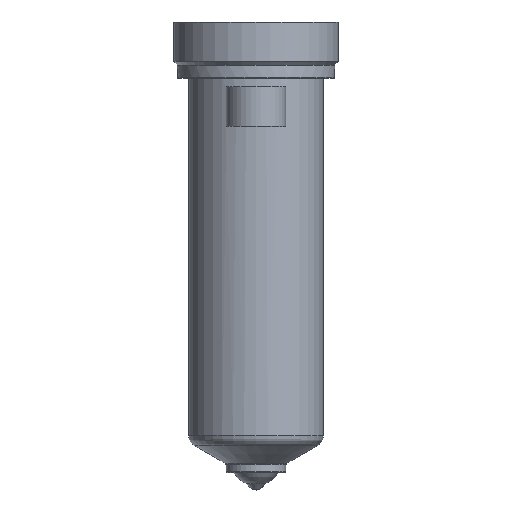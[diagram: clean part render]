
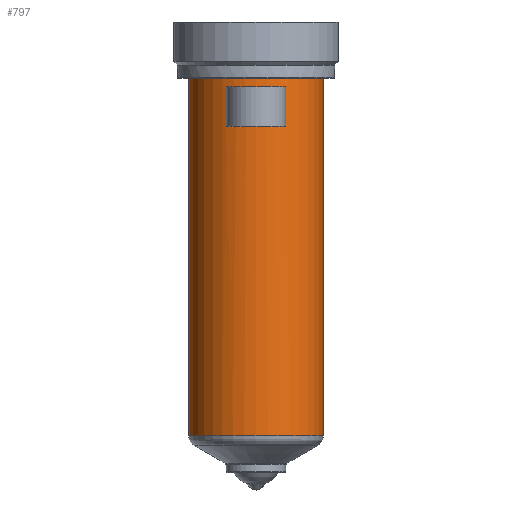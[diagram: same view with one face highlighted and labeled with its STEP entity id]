
A CAD part, top view. The second image highlights one B-rep face of the part: STEP entity #797.
In plain terms, the highlighted cylindrical face has radius 18 mm (diameter 36 mm), a partial arc.
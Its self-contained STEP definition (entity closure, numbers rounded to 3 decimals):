
#187=DIRECTION('',(0.,-1.,0.));
#188=VECTOR('',#187,95.506);
#189=CARTESIAN_POINT('',(18.,0.,0.));
#190=LINE('',#189,#188);
#191=CARTESIAN_POINT('',(0.,-95.506,0.));
#192=DIRECTION('',(0.,1.,0.));
#193=DIRECTION('',(-1.,0.,0.));
#194=AXIS2_PLACEMENT_3D('',#191,#192,#193);
#196=DIRECTION('',(0.,1.,0.));
#197=VECTOR('',#196,95.506);
#198=CARTESIAN_POINT('',(-18.,-95.506,0.));
#199=LINE('',#198,#197);
#200=CARTESIAN_POINT('',(0.,0.,0.));
#201=DIRECTION('',(0.,1.,0.));
#202=DIRECTION('',(-1.,0.,0.));
#203=AXIS2_PLACEMENT_3D('',#200,#201,#202);
#367=DIRECTION('',(0.,-1.,0.));
#368=VECTOR('',#367,10.5);
#369=CARTESIAN_POINT('',(-8.,-2.5,16.125));
#370=LINE('',#369,#368);
#371=CARTESIAN_POINT('',(0.,-13.,0.));
#372=DIRECTION('',(0.,1.,0.));
#373=DIRECTION('',(-0.444,0.,0.896));
#374=AXIS2_PLACEMENT_3D('',#371,#372,#373);
#397=CARTESIAN_POINT('',(0.,-2.5,0.));
#398=DIRECTION('',(0.,-1.,0.));
#399=DIRECTION('',(0.444,0.,0.896));
#400=AXIS2_PLACEMENT_3D('',#397,#398,#399);
#415=DIRECTION('',(0.,-1.,0.));
#416=VECTOR('',#415,10.5);
#417=CARTESIAN_POINT('',(8.,-2.5,16.125));
#418=LINE('',#417,#416);
#476=CARTESIAN_POINT('',(-18.,0.,0.));
#477=CARTESIAN_POINT('',(18.,0.,0.));
#478=VERTEX_POINT('',#476);
#479=VERTEX_POINT('',#477);
#488=CARTESIAN_POINT('',(-8.,-2.5,16.125));
#489=VERTEX_POINT('',#488);
#490=CARTESIAN_POINT('',(8.,-2.5,16.125));
#491=VERTEX_POINT('',#490);
#524=CARTESIAN_POINT('',(18.,-95.506,0.));
#525=VERTEX_POINT('',#524);
#534=CARTESIAN_POINT('',(-18.,-95.506,0.));
#535=VERTEX_POINT('',#534);
#556=CARTESIAN_POINT('',(-8.,-13.,16.125));
#557=CARTESIAN_POINT('',(8.,-13.,16.125));
#558=VERTEX_POINT('',#556);
#559=VERTEX_POINT('',#557);
#775=CARTESIAN_POINT('',(0.,16.4,0.));
#776=DIRECTION('',(0.,-1.,0.));
#777=DIRECTION('',(-1.,0.,0.));
#778=AXIS2_PLACEMENT_3D('',#775,#776,#777);
#779=CYLINDRICAL_SURFACE('',#778,18.);
#780=ORIENTED_EDGE('',*,*,#769,.T.);
#782=ORIENTED_EDGE('',*,*,#781,.F.);
#783=ORIENTED_EDGE('',*,*,#765,.T.);
#784=ORIENTED_EDGE('',*,*,#755,.T.);
#785=EDGE_LOOP('',(#780,#782,#783,#784));
#786=FACE_OUTER_BOUND('',#785,.F.);
#788=ORIENTED_EDGE('',*,*,#787,.T.);
#790=ORIENTED_EDGE('',*,*,#789,.T.);
#792=ORIENTED_EDGE('',*,*,#791,.F.);
#794=ORIENTED_EDGE('',*,*,#793,.T.);
#795=EDGE_LOOP('',(#788,#790,#792,#794));
#796=FACE_BOUND('',#795,.F.);
#797=ADVANCED_FACE('',(#786,#796),#779,.T.);
#195=CIRCLE('',#194,18.);
#204=CIRCLE('',#203,18.);
#375=CIRCLE('',#374,18.);
#401=CIRCLE('',#400,18.);
#755=EDGE_CURVE('',#478,#479,#204,.T.);
#765=EDGE_CURVE('',#535,#478,#199,.T.);
#769=EDGE_CURVE('',#479,#525,#190,.T.);
#781=EDGE_CURVE('',#535,#525,#195,.T.);
#787=EDGE_CURVE('',#489,#558,#370,.T.);
#789=EDGE_CURVE('',#558,#559,#375,.T.);
#791=EDGE_CURVE('',#491,#559,#418,.T.);
#793=EDGE_CURVE('',#491,#489,#401,.T.);
